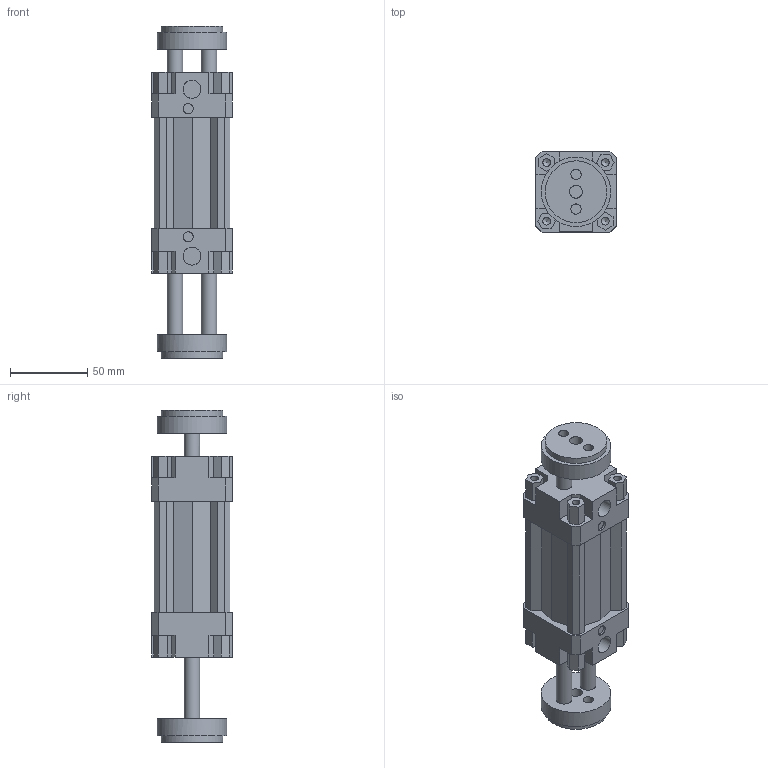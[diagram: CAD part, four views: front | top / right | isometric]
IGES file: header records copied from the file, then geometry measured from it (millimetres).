
Global section: file name: 132#_040_0025_06; native system: Autodesk Inventor 2014; preprocessor: unknown; author: A. Manieri; date: 20161006.154742; units: millimetre
Bounding box: 52 x 52 x 215 mm (x, y, z)
Volume: 300057.4 mm3; surface area: 83288.9 mm2
Topology: 2 solids, 2 shells, 190 faces, 518 edges, 354 vertices
Faces by surface type: bspline 190
